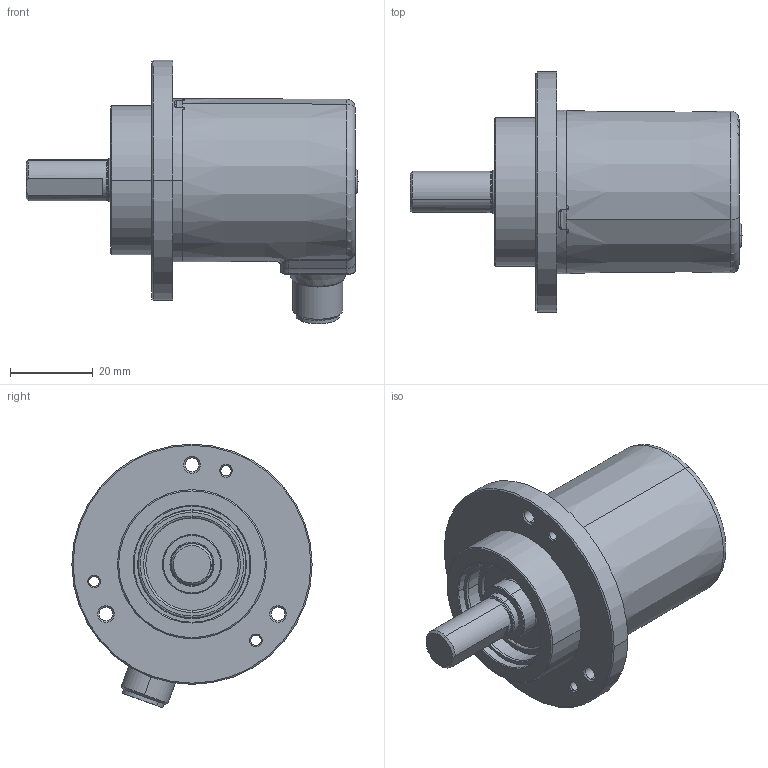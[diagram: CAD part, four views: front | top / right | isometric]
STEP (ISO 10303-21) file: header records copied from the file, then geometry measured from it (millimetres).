
FILE_DESCRIPTION (( 'STEP AP203' ), '1' );
FILE_NAME ('8.M5861.3544.5412.STEP', '2017-01-26T06:45:32', ( '' ), ( '' ), 'SwSTEP 2.0', 'SolidWorks 2013', '' );
FILE_SCHEMA (( 'CONFIG_CONTROL_DESIGN' ));
Length unit declared in the file: millimetre
Products named in the file (1): 8.M5861.3544.5412
Bounding box: 80.15 x 58 x 63.68 mm (x, y, z)
Volume: 40594.4 mm3; surface area: 31559.8 mm2
Topology: 6 solids, 6 shells, 589 faces, 1433 edges, 852 vertices
Faces by surface type: cylinder 174, plane 126, cone 107, bspline 90, torus 85, sphere 7
Entity records: 21043 total; most frequent: CARTESIAN_POINT 7728, DIRECTION 2821, ORIENTED_EDGE 2722, EDGE_CURVE 1361, AXIS2_PLACEMENT_3D 1182, VERTEX_POINT 842, EDGE_LOOP 687, CIRCLE 682
